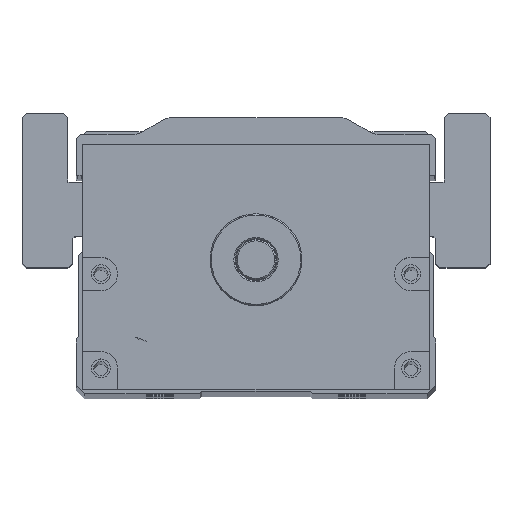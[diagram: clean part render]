
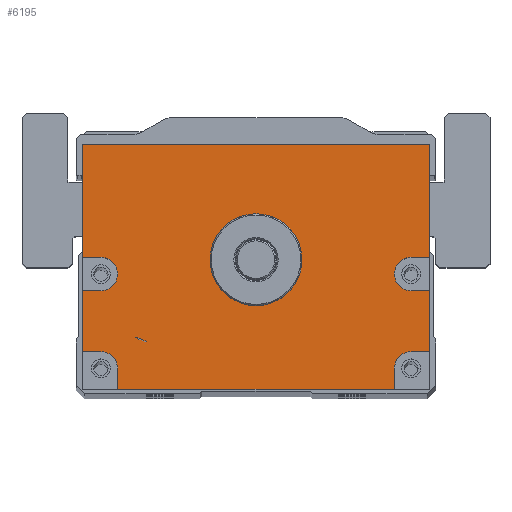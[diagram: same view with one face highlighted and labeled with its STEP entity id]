
A CAD part, top view. The second image highlights one B-rep face of the part: STEP entity #6195.
In plain terms, the highlighted planar face has unit normal (0, 0, 1).
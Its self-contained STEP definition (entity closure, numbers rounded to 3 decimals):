
#737=LINE('',#29919,#1588);
#739=LINE('',#29927,#1590);
#740=LINE('',#29930,#1591);
#741=LINE('',#29932,#1592);
#742=LINE('',#29936,#1593);
#743=LINE('',#29938,#1594);
#744=LINE('',#29939,#1595);
#745=LINE('',#29941,#1596);
#746=LINE('',#29945,#1597);
#747=LINE('',#29947,#1598);
#748=LINE('',#29949,#1599);
#749=LINE('',#29953,#1600);
#750=LINE('',#29955,#1601);
#751=LINE('',#29957,#1602);
#1588=VECTOR('',#17838,1.);
#1590=VECTOR('',#17846,1.);
#1591=VECTOR('',#17847,1.);
#1592=VECTOR('',#17848,1.);
#1593=VECTOR('',#17851,1.);
#1594=VECTOR('',#17852,1.);
#1595=VECTOR('',#17853,1.);
#1596=VECTOR('',#17854,1.);
#1597=VECTOR('',#17857,1.);
#1598=VECTOR('',#17858,1.);
#1599=VECTOR('',#17859,1.);
#1600=VECTOR('',#17862,1.);
#1601=VECTOR('',#17863,1.);
#1602=VECTOR('',#17864,1.);
#6195=ADVANCED_FACE('',(#7255,#7256),#6779,.T.);
#6779=PLANE('',#15830);
#7255=FACE_BOUND('',#8019,.T.);
#7256=FACE_BOUND('',#8020,.T.);
#8019=EDGE_LOOP('',(#9961,#9962,#9963,#9964,#9965,#9966,#9967,#9968,#9969,
#9970,#9971,#9972,#9973,#9974,#9975,#9976,#9977,#9978));
#8020=EDGE_LOOP('',(#9979));
#9961=ORIENTED_EDGE('',*,*,#13836,.F.);
#9962=ORIENTED_EDGE('',*,*,#13837,.T.);
#9963=ORIENTED_EDGE('',*,*,#13838,.F.);
#9964=ORIENTED_EDGE('',*,*,#13839,.F.);
#9965=ORIENTED_EDGE('',*,*,#13840,.F.);
#9966=ORIENTED_EDGE('',*,*,#13841,.T.);
#9967=ORIENTED_EDGE('',*,*,#13832,.T.);
#9968=ORIENTED_EDGE('',*,*,#13842,.T.);
#9969=ORIENTED_EDGE('',*,*,#13843,.F.);
#9970=ORIENTED_EDGE('',*,*,#13844,.F.);
#9971=ORIENTED_EDGE('',*,*,#13845,.F.);
#9972=ORIENTED_EDGE('',*,*,#13846,.T.);
#9973=ORIENTED_EDGE('',*,*,#13847,.F.);
#9974=ORIENTED_EDGE('',*,*,#13848,.F.);
#9975=ORIENTED_EDGE('',*,*,#13849,.F.);
#9976=ORIENTED_EDGE('',*,*,#13850,.T.);
#9977=ORIENTED_EDGE('',*,*,#13851,.F.);
#9978=ORIENTED_EDGE('',*,*,#13852,.F.);
#9979=ORIENTED_EDGE('',*,*,#13818,.T.);
#12439=VERTEX_POINT('',#29890);
#12452=VERTEX_POINT('',#29918);
#12453=VERTEX_POINT('',#29920);
#12456=VERTEX_POINT('',#29928);
#12457=VERTEX_POINT('',#29929);
#12458=VERTEX_POINT('',#29931);
#12459=VERTEX_POINT('',#29933);
#12460=VERTEX_POINT('',#29935);
#12461=VERTEX_POINT('',#29937);
#12462=VERTEX_POINT('',#29940);
#12463=VERTEX_POINT('',#29942);
#12464=VERTEX_POINT('',#29944);
#12465=VERTEX_POINT('',#29946);
#12466=VERTEX_POINT('',#29948);
#12467=VERTEX_POINT('',#29950);
#12468=VERTEX_POINT('',#29952);
#12469=VERTEX_POINT('',#29954);
#12470=VERTEX_POINT('',#29956);
#12471=VERTEX_POINT('',#29958);
#13818=EDGE_CURVE('',#12439,#12439,#15036,.T.);
#13832=EDGE_CURVE('',#12453,#12452,#737,.T.);
#13836=EDGE_CURVE('',#12456,#12457,#739,.T.);
#13837=EDGE_CURVE('',#12456,#12458,#740,.T.);
#13838=EDGE_CURVE('',#12459,#12458,#741,.T.);
#13839=EDGE_CURVE('',#12460,#12459,#15047,.T.);
#13840=EDGE_CURVE('',#12461,#12460,#742,.T.);
#13841=EDGE_CURVE('',#12461,#12453,#743,.T.);
#13842=EDGE_CURVE('',#12452,#12462,#744,.T.);
#13843=EDGE_CURVE('',#12463,#12462,#745,.T.);
#13844=EDGE_CURVE('',#12464,#12463,#15048,.T.);
#13845=EDGE_CURVE('',#12465,#12464,#746,.T.);
#13846=EDGE_CURVE('',#12465,#12466,#747,.T.);
#13847=EDGE_CURVE('',#12467,#12466,#748,.T.);
#13848=EDGE_CURVE('',#12468,#12467,#15049,.T.);
#13849=EDGE_CURVE('',#12469,#12468,#749,.T.);
#13850=EDGE_CURVE('',#12469,#12470,#750,.T.);
#13851=EDGE_CURVE('',#12471,#12470,#751,.T.);
#13852=EDGE_CURVE('',#12457,#12471,#15050,.T.);
#15036=CIRCLE('',#15812,11.);
#15047=CIRCLE('',#15826,4.);
#15048=CIRCLE('',#15827,4.);
#15049=CIRCLE('',#15828,4.);
#15050=CIRCLE('',#15829,4.);
#15812=AXIS2_PLACEMENT_3D('',#29889,#17811,#17812);
#15826=AXIS2_PLACEMENT_3D('',#29934,#17849,#17850);
#15827=AXIS2_PLACEMENT_3D('',#29943,#17855,#17856);
#15828=AXIS2_PLACEMENT_3D('',#29951,#17860,#17861);
#15829=AXIS2_PLACEMENT_3D('',#29959,#17865,#17866);
#15830=AXIS2_PLACEMENT_3D('',#29960,#17867,#17868);
#17811=DIRECTION('',(0.,0.,-1.));
#17812=DIRECTION('',(1.,0.,0.));
#17838=DIRECTION('',(-1.,0.,0.));
#17846=DIRECTION('',(-1.,0.,0.));
#17847=DIRECTION('',(0.,1.,0.));
#17848=DIRECTION('',(1.,0.,0.));
#17849=DIRECTION('',(0.,0.,1.));
#17850=DIRECTION('',(1.,0.,0.));
#17851=DIRECTION('',(-1.,0.,0.));
#17852=DIRECTION('',(0.,1.,0.));
#17853=DIRECTION('',(0.,-1.,0.));
#17854=DIRECTION('',(-1.,0.,0.));
#17855=DIRECTION('',(0.,0.,1.));
#17856=DIRECTION('',(1.,0.,0.));
#17857=DIRECTION('',(1.,0.,0.));
#17858=DIRECTION('',(0.,-1.,0.));
#17859=DIRECTION('',(-1.,0.,0.));
#17860=DIRECTION('',(0.,0.,1.));
#17861=DIRECTION('',(1.,0.,0.));
#17862=DIRECTION('',(0.,1.,0.));
#17863=DIRECTION('',(1.,0.,0.));
#17864=DIRECTION('',(0.,-1.,0.));
#17865=DIRECTION('',(0.,0.,1.));
#17866=DIRECTION('',(1.,0.,0.));
#17867=DIRECTION('',(0.,0.,1.));
#17868=DIRECTION('',(1.,0.,0.));
#29889=CARTESIAN_POINT('',(150.,0.,582.5));
#29890=CARTESIAN_POINT('',(161.,0.,582.5));
#29918=CARTESIAN_POINT('',(108.5,27.5,582.5));
#29919=CARTESIAN_POINT('',(191.5,27.5,582.5));
#29920=CARTESIAN_POINT('',(191.5,27.5,582.5));
#29927=CARTESIAN_POINT('',(191.5,-22.,582.5));
#29928=CARTESIAN_POINT('',(191.5,-22.,582.5));
#29929=CARTESIAN_POINT('',(187.115,-22.,582.5));
#29930=CARTESIAN_POINT('',(191.5,-31.,582.5));
#29931=CARTESIAN_POINT('',(191.5,-7.431,582.5));
#29932=CARTESIAN_POINT('',(191.5,-7.431,582.5));
#29933=CARTESIAN_POINT('',(187.115,-7.431,582.5));
#29934=CARTESIAN_POINT('',(187.115,-3.431,582.5));
#29935=CARTESIAN_POINT('',(187.115,0.569,582.5));
#29936=CARTESIAN_POINT('',(191.5,0.569,582.5));
#29937=CARTESIAN_POINT('',(191.5,0.569,582.5));
#29938=CARTESIAN_POINT('',(191.5,-31.,582.5));
#29939=CARTESIAN_POINT('',(108.5,27.5,582.5));
#29940=CARTESIAN_POINT('',(108.5,0.569,582.5));
#29941=CARTESIAN_POINT('',(191.5,0.569,582.5));
#29942=CARTESIAN_POINT('',(112.885,0.569,582.5));
#29943=CARTESIAN_POINT('',(112.885,-3.431,582.5));
#29944=CARTESIAN_POINT('',(112.885,-7.431,582.5));
#29945=CARTESIAN_POINT('',(191.5,-7.431,582.5));
#29946=CARTESIAN_POINT('',(108.5,-7.431,582.5));
#29947=CARTESIAN_POINT('',(108.5,27.5,582.5));
#29948=CARTESIAN_POINT('',(108.5,-22.,582.5));
#29949=CARTESIAN_POINT('',(191.5,-22.,582.5));
#29950=CARTESIAN_POINT('',(112.885,-22.,582.5));
#29951=CARTESIAN_POINT('',(112.885,-26.,582.5));
#29952=CARTESIAN_POINT('',(116.885,-26.,582.5));
#29953=CARTESIAN_POINT('',(116.885,-31.,582.5));
#29954=CARTESIAN_POINT('',(116.885,-31.,582.5));
#29955=CARTESIAN_POINT('',(108.5,-31.,582.5));
#29956=CARTESIAN_POINT('',(183.115,-31.,582.5));
#29957=CARTESIAN_POINT('',(183.115,-31.,582.5));
#29958=CARTESIAN_POINT('',(183.115,-26.,582.5));
#29959=CARTESIAN_POINT('',(187.115,-26.,582.5));
#29960=CARTESIAN_POINT('',(191.5,-31.,582.5));
